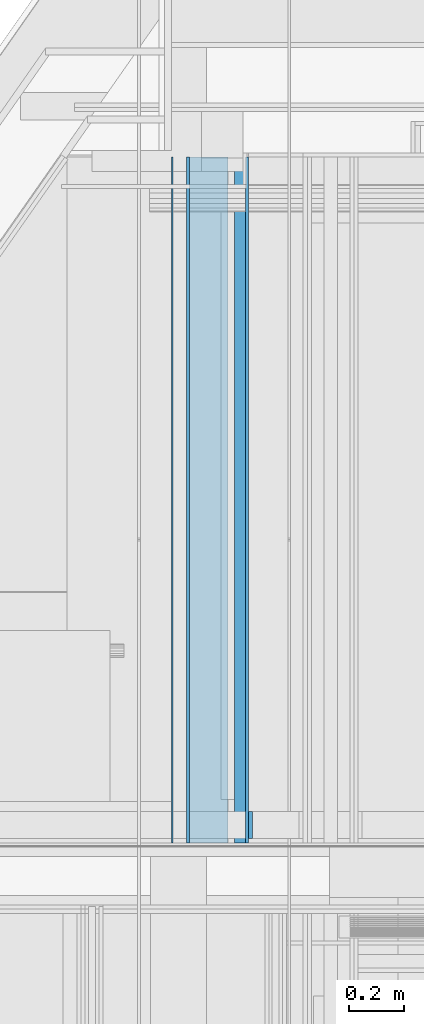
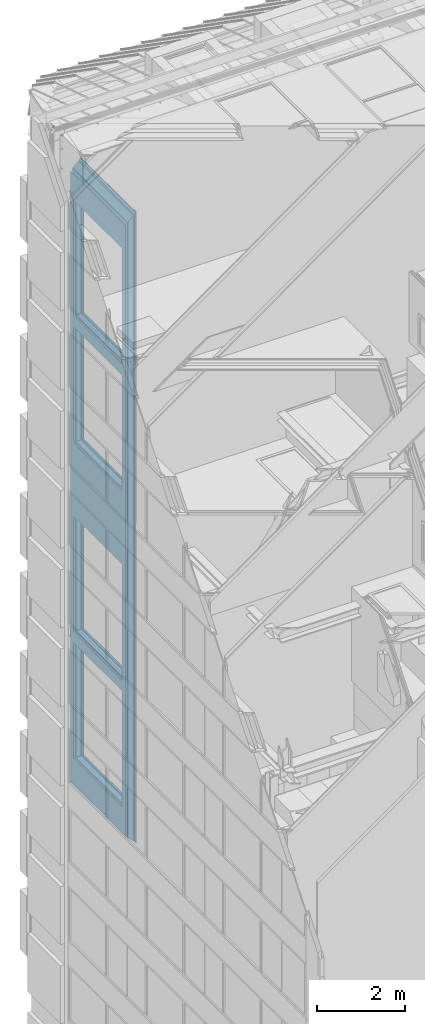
# One storey, part 154 of 583: 8 building element parts, 8 openings, 1 element without a shape of its own.
"""IFC2X3 building model written with IfcOpenShell, lengths in metres."""

from ifc_helpers import new_model, entity, si_unit, converted_unit, derived_unit, money_unit, direction, frame, frame_2d, origin_with_axes, place, context, subcontext, project, spatial, polyline, rectangle, outline, extrude, material, type_object, element, aggregate, save


model = new_model("IFC2X3")

# Units and contexts
model_context = context("Model", 3, precision=1e-05, world=origin_with_axes(), true_north=direction((0.0, 1.0)))
body_context = subcontext(model_context, "Body", "Model", "MODEL_VIEW", scale=1.0)
ifc_project = project(units=[si_unit("LENGTHUNIT", "METRE"), si_unit("AREAUNIT", "SQUARE_METRE"), si_unit("VOLUMEUNIT", "CUBIC_METRE"), si_unit("ABSORBEDDOSEUNIT", "GRAY"), si_unit("AMOUNTOFSUBSTANCEUNIT", "MOLE"), si_unit("DOSEEQUIVALENTUNIT", "SIEVERT"), si_unit("ELECTRICCAPACITANCEUNIT", "FARAD"), si_unit("ELECTRICCHARGEUNIT", "COULOMB"), si_unit("ELECTRICCONDUCTANCEUNIT", "SIEMENS"), si_unit("ELECTRICCURRENTUNIT", "AMPERE"), si_unit("ELECTRICRESISTANCEUNIT", "OHM"), si_unit("ELECTRICVOLTAGEUNIT", "VOLT"), si_unit("ENERGYUNIT", "JOULE"), si_unit("FORCEUNIT", "NEWTON"), si_unit("FREQUENCYUNIT", "HERTZ"), si_unit("ILLUMINANCEUNIT", "LUX"), si_unit("INDUCTANCEUNIT", "HENRY"), si_unit("LUMINOUSFLUXUNIT", "LUMEN"), si_unit("LUMINOUSINTENSITYUNIT", "CANDELA"), si_unit("MAGNETICFLUXDENSITYUNIT", "TESLA"), si_unit("MAGNETICFLUXUNIT", "WEBER"), si_unit("MASSUNIT", "GRAM"), converted_unit("PLANEANGLEUNIT", "degree", entity("IfcReal", 0.0174532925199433), si_unit("PLANEANGLEUNIT", "RADIAN"), dimensions=[0, 0, 0, 0, 0, 0, 0]), si_unit("POWERUNIT", "WATT"), si_unit("PRESSUREUNIT", "PASCAL"), si_unit("RADIOACTIVITYUNIT", "BECQUEREL"), si_unit("SOLIDANGLEUNIT", "STERADIAN"), si_unit("THERMODYNAMICTEMPERATUREUNIT", "KELVIN"), si_unit("TIMEUNIT", "SECOND"), derived_unit("ACCELERATIONUNIT", [(si_unit("LENGTHUNIT", "METRE"), 1), (si_unit("TIMEUNIT", "SECOND"), -2)]), derived_unit("ANGULARVELOCITYUNIT", [(converted_unit("PLANEANGLEUNIT", "degree", entity("IfcReal", 0.0174532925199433), si_unit("PLANEANGLEUNIT", "RADIAN"), dimensions=[0, 0, 0, 0, 0, 0, 0]), 1), (si_unit("TIMEUNIT", "SECOND"), -1)]), derived_unit("CURVATUREUNIT", [(converted_unit("PLANEANGLEUNIT", "degree", entity("IfcReal", 0.0174532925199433), si_unit("PLANEANGLEUNIT", "RADIAN"), dimensions=[0, 0, 0, 0, 0, 0, 0]), 1), (si_unit("LENGTHUNIT", "METRE"), -1)]), derived_unit("DYNAMICVISCOSITYUNIT", [(si_unit("PRESSUREUNIT", "PASCAL"), 1), (si_unit("TIMEUNIT", "SECOND"), 1)]), derived_unit("HEATFLUXDENSITYUNIT", [(si_unit("POWERUNIT", "WATT"), 1), (si_unit("LENGTHUNIT", "METRE"), -2)]), derived_unit("HEATINGVALUEUNIT", [(si_unit("ENERGYUNIT", "JOULE"), 1), (si_unit("MASSUNIT", "GRAM"), -1)]), derived_unit("INTEGERCOUNTRATEUNIT", [(si_unit("TIMEUNIT", "SECOND"), -1)]), derived_unit("IONCONCENTRATIONUNIT", [(si_unit("MASSUNIT", "GRAM"), 1), (si_unit("VOLUMEUNIT", "CUBIC_METRE"), -1)]), derived_unit("ISOTHERMALMOISTURECAPACITYUNIT", [(si_unit("VOLUMEUNIT", "CUBIC_METRE"), 1), (si_unit("MASSUNIT", "GRAM"), -1)]), derived_unit("KINEMATICVISCOSITYUNIT", [(si_unit("AREAUNIT", "SQUARE_METRE"), 1), (si_unit("TIMEUNIT", "SECOND"), -1)]), derived_unit("LINEARFORCEUNIT", [(si_unit("FORCEUNIT", "NEWTON"), 1), (si_unit("LENGTHUNIT", "METRE"), -1)]), derived_unit("LINEARMOMENTUNIT", [(si_unit("FORCEUNIT", "NEWTON"), 1), (si_unit("LENGTHUNIT", "METRE"), -1)]), derived_unit("LINEARSTIFFNESSUNIT", [(si_unit("FORCEUNIT", "NEWTON"), 1), (si_unit("LENGTHUNIT", "METRE"), -1)]), derived_unit("LINEARVELOCITYUNIT", [(si_unit("LENGTHUNIT", "METRE"), 1), (si_unit("TIMEUNIT", "SECOND"), -1)]), derived_unit("LUMINOUSINTENSITYDISTRIBUTIONUNIT", [(si_unit("LUMINOUSINTENSITYUNIT", "CANDELA"), 1), (si_unit("LUMINOUSFLUXUNIT", "LUMEN"), -1)]), derived_unit("MASSDENSITYUNIT", [(si_unit("MASSUNIT", "GRAM"), 1), (si_unit("VOLUMEUNIT", "CUBIC_METRE"), -1)]), derived_unit("MASSFLOWRATEUNIT", [(si_unit("MASSUNIT", "GRAM"), 1), (si_unit("TIMEUNIT", "SECOND"), -1)]), derived_unit("MASSPERLENGTHUNIT", [(si_unit("MASSUNIT", "GRAM"), 1), (si_unit("LENGTHUNIT", "METRE"), -1)]), derived_unit("MODULUSOFELASTICITYUNIT", [(si_unit("FORCEUNIT", "NEWTON"), 1), (si_unit("AREAUNIT", "SQUARE_METRE"), -1)]), derived_unit("MODULUSOFLINEARSUBGRADEREACTIONUNIT", [(si_unit("FORCEUNIT", "NEWTON"), 1), (si_unit("LENGTHUNIT", "METRE"), -2)]), derived_unit("MODULUSOFROTATIONALSUBGRADEREACTIONUNIT", [(si_unit("FORCEUNIT", "NEWTON"), 1), (si_unit("LENGTHUNIT", "METRE"), 1)]), derived_unit("MODULUSOFSUBGRADEREACTIONUNIT", [(si_unit("FORCEUNIT", "NEWTON"), 1), (si_unit("VOLUMEUNIT", "CUBIC_METRE"), -1)]), derived_unit("MOISTUREDIFFUSIVITYUNIT", [(si_unit("VOLUMEUNIT", "CUBIC_METRE"), 1), (si_unit("TIMEUNIT", "SECOND"), -1)]), derived_unit("MOLECULARWEIGHTUNIT", [(si_unit("MASSUNIT", "GRAM"), 1), (si_unit("AMOUNTOFSUBSTANCEUNIT", "MOLE"), -1)]), derived_unit("PLANARFORCEUNIT", [(si_unit("FORCEUNIT", "NEWTON"), 1), (si_unit("LENGTHUNIT", "METRE"), -2)]), derived_unit("ROTATIONALFREQUENCYUNIT", [(si_unit("TIMEUNIT", "SECOND"), -1)]), derived_unit("ROTATIONALMASSUNIT", [(si_unit("MASSUNIT", "GRAM"), 1), (si_unit("LENGTHUNIT", "METRE"), 2)]), derived_unit("ROTATIONALSTIFFNESSUNIT", [(si_unit("FORCEUNIT", "NEWTON"), 1), (si_unit("LENGTHUNIT", "METRE"), 1), (converted_unit("PLANEANGLEUNIT", "degree", entity("IfcReal", 0.0174532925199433), si_unit("PLANEANGLEUNIT", "RADIAN"), dimensions=[0, 0, 0, 0, 0, 0, 0]), -1)]), derived_unit("SECTIONAREAINTEGRALUNIT", [(si_unit("LENGTHUNIT", "METRE"), 5)]), derived_unit("SECTIONMODULUSUNIT", [(si_unit("LENGTHUNIT", "METRE"), 3)]), derived_unit("SHEARMODULUSUNIT", [(si_unit("FORCEUNIT", "NEWTON"), 1), (si_unit("AREAUNIT", "SQUARE_METRE"), -1)]), derived_unit("SOUNDPOWERUNIT", [(si_unit("ENERGYUNIT", "JOULE"), 1), (si_unit("TIMEUNIT", "SECOND"), -1)]), derived_unit("SPECIFICHEATCAPACITYUNIT", [(si_unit("FORCEUNIT", "NEWTON"), 1), (si_unit("MASSUNIT", "GRAM"), -1), (si_unit("THERMODYNAMICTEMPERATUREUNIT", "KELVIN"), -1)]), derived_unit("TEMPERATUREGRADIENTUNIT", [(si_unit("THERMODYNAMICTEMPERATUREUNIT", "KELVIN"), 1), (si_unit("LENGTHUNIT", "METRE"), -1)]), derived_unit("THERMALADMITTANCEUNIT", [(si_unit("POWERUNIT", "WATT"), 1), (si_unit("AREAUNIT", "SQUARE_METRE"), -1), (si_unit("THERMODYNAMICTEMPERATUREUNIT", "KELVIN"), -1)]), derived_unit("THERMALCONDUCTANCEUNIT", [(si_unit("POWERUNIT", "WATT"), 1), (si_unit("LENGTHUNIT", "METRE"), -1), (si_unit("THERMODYNAMICTEMPERATUREUNIT", "KELVIN"), -1)]), derived_unit("THERMALEXPANSIONCOEFFICIENTUNIT", [(si_unit("THERMODYNAMICTEMPERATUREUNIT", "KELVIN"), -1)]), derived_unit("THERMALRESISTANCEUNIT", [(si_unit("AREAUNIT", "SQUARE_METRE"), 1), (si_unit("POWERUNIT", "WATT"), -1)]), derived_unit("THERMALTRANSMITTANCEUNIT", [(si_unit("POWERUNIT", "WATT"), 1), (si_unit("AREAUNIT", "SQUARE_METRE"), -1), (si_unit("THERMODYNAMICTEMPERATUREUNIT", "KELVIN"), -1)]), derived_unit("TORQUEUNIT", [(si_unit("FORCEUNIT", "NEWTON"), 1), (si_unit("LENGTHUNIT", "METRE"), 1)]), derived_unit("VAPORPERMEABILITYUNIT", [(si_unit("MASSUNIT", "GRAM"), 1), (si_unit("TIMEUNIT", "SECOND"), -1)]), derived_unit("VOLUMETRICFLOWRATEUNIT", [(si_unit("VOLUMEUNIT", "CUBIC_METRE"), 1), (si_unit("TIMEUNIT", "SECOND"), -1)]), derived_unit("WARPINGCONSTANTUNIT", [(si_unit("LENGTHUNIT", "METRE"), 6)]), derived_unit("WARPINGMOMENTUNIT", [(si_unit("FORCEUNIT", "NEWTON"), 1), (si_unit("LENGTHUNIT", "METRE"), 2)]), money_unit("GBP")], contexts=[model_context])

# Site, building, storey
site_placement = place(None, origin_with_axes())
site = spatial("IfcSite", under=ifc_project, at=site_placement, Name="Site", CompositionType="ELEMENT")
building_placement = place(site_placement, origin_with_axes())
building = spatial("IfcBuilding", under=site, at=building_placement, Name="Building01", CompositionType="ELEMENT")
storey_placement = place(building_placement, frame((0.0, 0.0, 20.78), z_axis=(0.0, 0.0, 1.0), x_axis=(1.0, 0.0, 0.0)))
storey = spatial("IfcBuildingStorey", under=building, at=storey_placement, Name="RL", CompositionType="ELEMENT", Elevation=20.78)

# Wall, openings, building element parts
wall_type = type_object("IfcWallType", Name="SHE_A-Walls_Type06e_ExternalWallPenthouse_280mm", PredefinedType="NOTDEFINED")
wall_placement = place(storey_placement, frame((3.264939, 17.68, -15.784976), z_axis=(0.0, 1.0, 0.0), x_axis=(0.0, 0.0, 1.0)))
wall = element("IfcWall", 1, at=wall_placement, inside=storey, type_object=wall_type, Name="6E", ObjectType="SHE_A-Walls_Type06e_ExternalWallPenthouse_280mm")
opening_1_placement = place(wall_placement, frame((9.520718, 0.215, 0.157793), z_axis=(0.0, 0.0, 1.0), x_axis=(1.0, 0.0, 0.0)))
element("IfcOpeningElement", 2, at=opening_1_placement, cuts=wall, Name="Opening", ObjectType="Opening", context=body_context, shape_type="SweptSolid", body=[
    extrude(rectangle(XDim=2.2, YDim=1.6, at=frame_2d((0.8, 1.1), x_axis=(0.0, -1.0))), frame((0.0, 0.0, 0.0), z_axis=(0.0, -1.0, 0.0), x_axis=(1.0, 0.0, 0.0)), (0.0, 0.0, 1.0), 19.218188),
])
opening_2_placement = place(wall_placement, frame((11.120718, 0.215, 0.157793), z_axis=(0.0, 0.0, 1.0), x_axis=(1.0, 0.0, 0.0)))
element("IfcOpeningElement", 3, at=opening_2_placement, cuts=wall, Name="Opening", ObjectType="Opening", context=body_context, shape_type="SweptSolid", body=[
    extrude(rectangle(XDim=2.2, YDim=1.6, at=frame_2d((0.8, 1.1), x_axis=(0.0, -1.0))), frame((0.0, 0.0, 0.0), z_axis=(0.0, -1.0, 0.0), x_axis=(1.0, 0.0, 0.0)), (0.0, 0.0, 1.0), 19.218188),
])
opening_3_placement = place(wall_placement, frame((13.020718, 0.215, 0.157793), z_axis=(0.0, 0.0, 1.0), x_axis=(1.0, 0.0, 0.0)))
element("IfcOpeningElement", 4, at=opening_3_placement, cuts=wall, Name="Opening", ObjectType="Opening", context=body_context, shape_type="SweptSolid", body=[
    extrude(rectangle(XDim=2.2, YDim=1.6, at=frame_2d((0.8, 1.1), x_axis=(0.0, -1.0))), frame((0.0, 0.0, 0.0), z_axis=(0.0, -1.0, 0.0), x_axis=(1.0, 0.0, 0.0)), (0.0, 0.0, 1.0), 19.218188),
])
opening_4_placement = place(wall_placement, frame((14.620718, 0.215, 0.157793), z_axis=(0.0, 0.0, 1.0), x_axis=(1.0, 0.0, 0.0)))
element("IfcOpeningElement", 5, at=opening_4_placement, cuts=wall, Name="Opening", ObjectType="Opening", context=body_context, shape_type="SweptSolid", body=[
    extrude(rectangle(XDim=2.2, YDim=1.6, at=frame_2d((0.8, 1.1), x_axis=(0.0, -1.0))), frame((0.0, 0.0, 0.0), z_axis=(0.0, -1.0, 0.0), x_axis=(1.0, 0.0, 0.0)), (0.0, 0.0, 1.0), 19.218188),
])
opening_5_placement = place(wall_placement, frame((4.289209, 0.215, 0.157793), z_axis=(0.0, 0.0, 1.0), x_axis=(1.0, 0.0, 0.0)))
element("IfcOpeningElement", 6, at=opening_5_placement, cuts=wall, Name="Opening", ObjectType="Opening", context=body_context, shape_type="SweptSolid", body=[
    extrude(rectangle(XDim=2.2, YDim=1.6, at=frame_2d((0.8, 1.1), x_axis=(0.0, -1.0))), frame((0.0, 0.0, 0.0), z_axis=(0.0, -1.0, 0.0), x_axis=(1.0, 0.0, 0.0)), (0.0, 0.0, 1.0), 19.218188),
])
opening_6_placement = place(wall_placement, frame((5.889209, 0.215, 0.157793), z_axis=(0.0, 0.0, 1.0), x_axis=(1.0, 0.0, 0.0)))
element("IfcOpeningElement", 7, at=opening_6_placement, cuts=wall, Name="Opening", ObjectType="Opening", context=body_context, shape_type="SweptSolid", body=[
    extrude(rectangle(XDim=2.2, YDim=1.6, at=frame_2d((0.8, 1.1), x_axis=(0.0, -1.0))), frame((0.0, 0.0, 0.0), z_axis=(0.0, -1.0, 0.0), x_axis=(1.0, 0.0, 0.0)), (0.0, 0.0, 1.0), 19.218188),
])
opening_7_placement = place(wall_placement, frame((2.389209, 0.215, 0.157793), z_axis=(0.0, 0.0, 1.0), x_axis=(1.0, 0.0, 0.0)))
element("IfcOpeningElement", 8, at=opening_7_placement, cuts=wall, Name="Opening", ObjectType="Opening", context=body_context, shape_type="SweptSolid", body=[
    extrude(rectangle(XDim=2.2, YDim=1.6, at=frame_2d((0.8, 1.1), x_axis=(0.0, -1.0))), frame((0.0, 0.0, 0.0), z_axis=(0.0, -1.0, 0.0), x_axis=(1.0, 0.0, 0.0)), (0.0, 0.0, 1.0), 19.218188),
])
opening_8_placement = place(wall_placement, frame((0.789209, 0.215, 0.157793), z_axis=(0.0, 0.0, 1.0), x_axis=(1.0, 0.0, 0.0)))
element("IfcOpeningElement", 9, at=opening_8_placement, cuts=wall, Name="Opening", ObjectType="Opening", context=body_context, shape_type="SweptSolid", body=[
    extrude(rectangle(XDim=2.2, YDim=1.6, at=frame_2d((0.8, 1.1), x_axis=(0.0, -1.0))), frame((0.0, 0.0, 0.0), z_axis=(0.0, -1.0, 0.0), x_axis=(1.0, 0.0, 0.0)), (0.0, 0.0, 1.0), 19.218188),
])
ifc_material_1 = material(Name="A_BSUK_Insulation")
placement = place(wall_placement, origin_with_axes())
building_element_part_1 = element("IfcBuildingElementPart", 10, at=placement, material=ifc_material_1, Name="1", context=body_context, shape_type="SweptSolid", body=[
    extrude(outline(polyline([(17.149951, 0.14), (-0.14, 0.14), (0.0, 0.0), (17.009951, 0.0), (17.149951, 0.14)])), origin_with_axes(), (0.0, 0.0, 1.0), 2.5),
])
building_element_part_2 = element("IfcBuildingElementPart", 11, at=placement, material=ifc_material_1, Name="2", context=body_context, shape_type="SweptSolid", body=[
    extrude(outline(polyline([(17.214951, 0.205), (-0.205, 0.205), (-0.165, 0.165), (17.174951, 0.165), (17.214951, 0.205)])), origin_with_axes(), (0.0, 0.0, 1.0), 2.5),
])
ifc_material_2 = material(Name="A_BSUK_Walls_Timber")
building_element_part_3 = element("IfcBuildingElementPart", 12, at=placement, material=ifc_material_2, Name="3", context=body_context, shape_type="SweptSolid", body=[
    extrude(outline(polyline([(8.404976, 0.23), (-0.23, 0.23), (-0.215, 0.215), (8.404976, 0.215), (8.404976, 0.23)])), frame((0.0, 0.0, 0.015), z_axis=(0.0, 0.0, 1.0), x_axis=(1.0, 0.0, 0.0)), (0.0, 0.0, 1.0), 0.1),
])
building_element_part_4 = element("IfcBuildingElementPart", 13, at=placement, material=ifc_material_2, Name="4", context=body_context, shape_type="SweptSolid", body=[
    extrude(outline(polyline([(17.239951, 0.23), (8.604976, 0.23), (8.604976, 0.215), (17.224951, 0.215), (17.239951, 0.23)])), frame((0.0, 0.0, 0.015), z_axis=(0.0, 0.0, 1.0), x_axis=(1.0, 0.0, 0.0)), (0.0, 0.0, 1.0), 0.1),
])
ifc_material_3 = material(Name="A_BSUK_WallInternal_Finishes_Plasterboard")
building_element_part_5 = element("IfcBuildingElementPart", 14, at=placement, material=ifc_material_3, Name="5", context=body_context, shape_type="SweptSolid", body=[
    extrude(outline(polyline([(8.434976, 0.215), (-0.215, 0.215), (-0.205, 0.205), (8.434976, 0.205), (8.434976, 0.215)])), origin_with_axes(), (0.0, 0.0, 1.0), 2.5),
])
building_element_part_6 = element("IfcBuildingElementPart", 15, at=placement, material=ifc_material_2, Name="6", context=body_context, shape_type="SweptSolid", body=[
    extrude(outline(polyline([(17.009951, 0.0), (0.0, 0.0), (0.01, -0.01), (16.999951, -0.01), (17.009951, 0.0)])), origin_with_axes(), (0.0, 0.0, 1.0), 2.5),
])
building_element_part_7 = element("IfcBuildingElementPart", 16, at=placement, material=ifc_material_3, Name="7", context=body_context, shape_type="SweptSolid", body=[
    extrude(outline(polyline([(17.224951, 0.215), (8.574976, 0.215), (8.574976, 0.205), (17.214951, 0.205), (17.224951, 0.215)])), origin_with_axes(), (0.0, 0.0, 1.0), 2.5),
])
ifc_material_4 = material(Name="A_BSUK_WallInternal_Finishes_Metal")
building_element_part_8 = element("IfcBuildingElementPart", 17, at=placement, material=ifc_material_4, Name="8", context=body_context, shape_type="SweptSolid", body=[
    extrude(outline(polyline([(16.949951, -0.06), (0.06, -0.06), (0.065, -0.065), (16.944951, -0.065), (16.949951, -0.06)])), origin_with_axes(), (0.0, 0.0, 1.0), 2.5),
])
aggregate(wall, [building_element_part_1, building_element_part_2, building_element_part_3, building_element_part_4, building_element_part_5, building_element_part_6, building_element_part_7, building_element_part_8])

save(model, "model.ifc")
